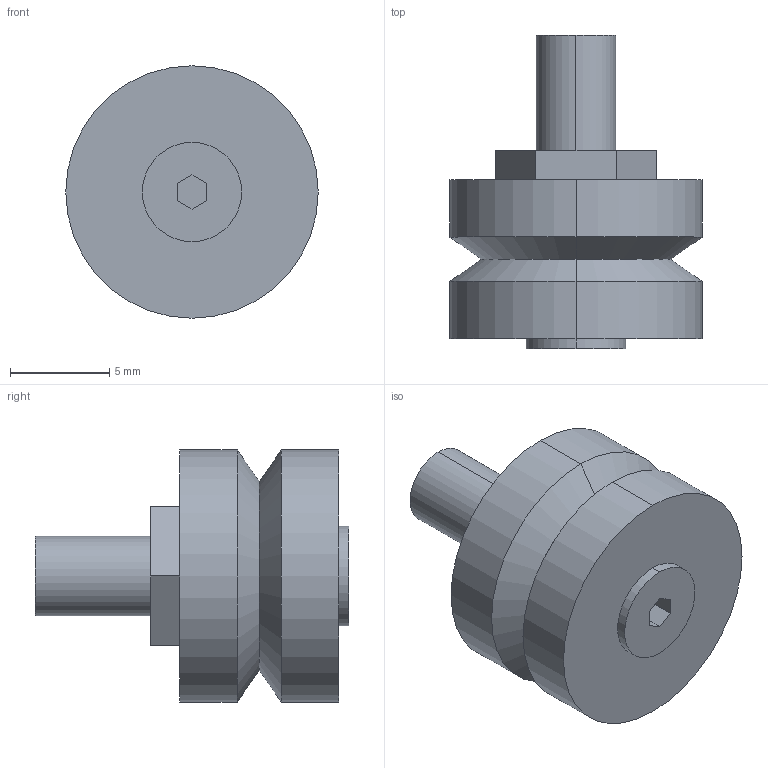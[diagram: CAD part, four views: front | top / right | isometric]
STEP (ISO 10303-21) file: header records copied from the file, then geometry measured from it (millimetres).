
FILE_DESCRIPTION(('STEP AP203'),'1');
FILE_NAME('bhj_13_c_ns.stp','2021-08-02T12:46:06',('TraceParts'),('TraceParts S.A.'),'Spatial InterOp 3D',' ',' ');
FILE_SCHEMA(('CONFIG_CONTROL_DESIGN'));
Length unit declared in the file: millimetre
Products named in the file (1): 1
Bounding box: 12.7 x 15.77 x 12.7 mm (x, y, z)
Volume: 1089.5 mm3; surface area: 746.1 mm2
Topology: 1 solids, 1 shells, 30 faces, 66 edges, 42 vertices
Faces by surface type: plane 18, cylinder 8, cone 4
Entity records: 864 total; most frequent: DIRECTION 146, CARTESIAN_POINT 139, ORIENTED_EDGE 132, EDGE_CURVE 66, AXIS2_PLACEMENT_3D 49, LINE 48, VECTOR 48, VERTEX_POINT 42
